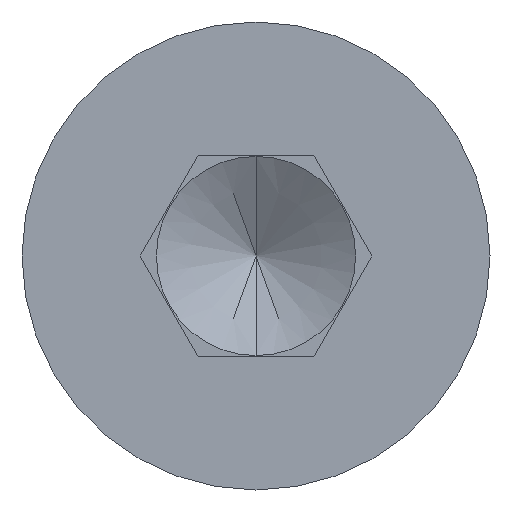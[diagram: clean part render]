
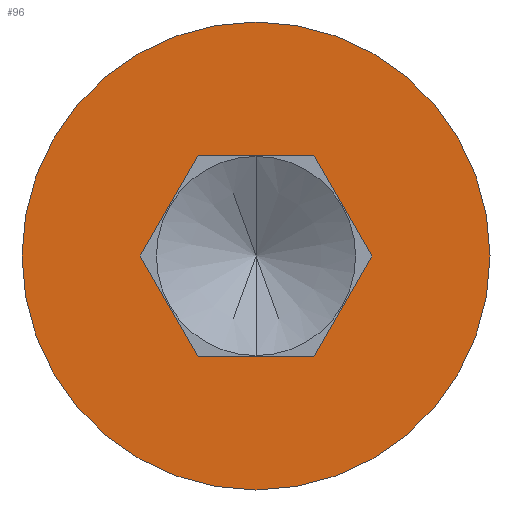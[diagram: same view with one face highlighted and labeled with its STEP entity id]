
A CAD part, left-side view. The second image highlights one B-rep face of the part: STEP entity #96.
In plain terms, the highlighted planar face has unit normal (-1, 0, 0).
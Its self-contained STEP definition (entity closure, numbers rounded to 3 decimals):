
#15 = CARTESIAN_POINT ( 'NONE',  ( -4., -1.732, 0. ) ) ;
#17 = FACE_OUTER_BOUND ( 'NONE', #564, .T. ) ;
#48 = CARTESIAN_POINT ( 'NONE',  ( -4., -0.866, 1.5 ) ) ;
#96 = ADVANCED_FACE ( 'NONE', ( #661, #17 ), #298, .T. ) ;
#102 = LINE ( 'NONE', #370, #254 ) ;
#103 = DIRECTION ( 'NONE',  ( 1., 0., 0. ) ) ;
#109 = EDGE_LOOP ( 'NONE', ( #718, #211, #519, #164, #365, #445 ) ) ;
#114 = LINE ( 'NONE', #619, #450 ) ;
#124 = EDGE_CURVE ( 'NONE', #215, #692, #769, .T. ) ;
#129 = ORIENTED_EDGE ( 'NONE', *, *, #347, .F. ) ;
#137 = CARTESIAN_POINT ( 'NONE',  ( -4., 0.866, 1.5 ) ) ;
#164 = ORIENTED_EDGE ( 'NONE', *, *, #124, .T. ) ;
#174 = AXIS2_PLACEMENT_3D ( 'NONE', #301, #730, #364 ) ;
#179 = CARTESIAN_POINT ( 'NONE',  ( -4., 0., 3.5 ) ) ;
#190 = CIRCLE ( 'NONE', #368, 3.5 ) ;
#197 = DIRECTION ( 'NONE',  ( 0., 0.5, 0.866 ) ) ;
#205 = VERTEX_POINT ( 'NONE', #179 ) ;
#211 = ORIENTED_EDGE ( 'NONE', *, *, #266, .T. ) ;
#215 = VERTEX_POINT ( 'NONE', #553 ) ;
#254 = VECTOR ( 'NONE', #796, 1000. ) ;
#259 = ORIENTED_EDGE ( 'NONE', *, *, #747, .F. ) ;
#266 = EDGE_CURVE ( 'NONE', #326, #380, #377, .T. ) ;
#267 = DIRECTION ( 'NONE',  ( 0., -0.5, 0.866 ) ) ;
#294 = VERTEX_POINT ( 'NONE', #530 ) ;
#298 = PLANE ( 'NONE',  #174 ) ;
#301 = CARTESIAN_POINT ( 'NONE',  ( -4., 1.75, 0. ) ) ;
#306 = VERTEX_POINT ( 'NONE', #658 ) ;
#326 = VERTEX_POINT ( 'NONE', #535 ) ;
#334 = CARTESIAN_POINT ( 'NONE',  ( -4., 0., 0. ) ) ;
#347 = EDGE_CURVE ( 'NONE', #205, #294, #402, .T. ) ;
#364 = DIRECTION ( 'NONE',  ( 0., 0., 1. ) ) ;
#365 = ORIENTED_EDGE ( 'NONE', *, *, #469, .T. ) ;
#368 = AXIS2_PLACEMENT_3D ( 'NONE', #334, #762, #394 ) ;
#370 = CARTESIAN_POINT ( 'NONE',  ( -4., -1.732, 0. ) ) ;
#377 = LINE ( 'NONE', #387, #700 ) ;
#380 = VERTEX_POINT ( 'NONE', #605 ) ;
#387 = CARTESIAN_POINT ( 'NONE',  ( -4., 0.866, -1.5 ) ) ;
#394 = DIRECTION ( 'NONE',  ( 0., 0., 1. ) ) ;
#402 = CIRCLE ( 'NONE', #617, 3.5 ) ;
#426 = DIRECTION ( 'NONE',  ( 0., -1., 0. ) ) ;
#445 = ORIENTED_EDGE ( 'NONE', *, *, #759, .T. ) ;
#450 = VECTOR ( 'NONE', #682, 1000. ) ;
#458 = DIRECTION ( 'NONE',  ( 0., 0.5, -0.866 ) ) ;
#469 = EDGE_CURVE ( 'NONE', #692, #741, #102, .T. ) ;
#475 = CARTESIAN_POINT ( 'NONE',  ( -4., 0., 0. ) ) ;
#503 = VECTOR ( 'NONE', #458, 1000. ) ;
#519 = ORIENTED_EDGE ( 'NONE', *, *, #702, .T. ) ;
#530 = CARTESIAN_POINT ( 'NONE',  ( -4., 0., -3.5 ) ) ;
#535 = CARTESIAN_POINT ( 'NONE',  ( -4., 0.866, -1.5 ) ) ;
#537 = EDGE_CURVE ( 'NONE', #306, #326, #114, .T. ) ;
#538 = DIRECTION ( 'NONE',  ( 0., 0., 1. ) ) ;
#553 = CARTESIAN_POINT ( 'NONE',  ( -4., 0.866, 1.5 ) ) ;
#564 = EDGE_LOOP ( 'NONE', ( #129, #259 ) ) ;
#578 = VECTOR ( 'NONE', #267, 1000. ) ;
#605 = CARTESIAN_POINT ( 'NONE',  ( -4., 1.732, 0. ) ) ;
#617 = AXIS2_PLACEMENT_3D ( 'NONE', #475, #103, #538 ) ;
#619 = CARTESIAN_POINT ( 'NONE',  ( -4., 0.866, -1.5 ) ) ;
#631 = CARTESIAN_POINT ( 'NONE',  ( -4., -0.866, 1.5 ) ) ;
#637 = CARTESIAN_POINT ( 'NONE',  ( -4., -0.866, -1.5 ) ) ;
#658 = CARTESIAN_POINT ( 'NONE',  ( -4., -0.866, -1.5 ) ) ;
#661 = FACE_BOUND ( 'NONE', #109, .T. ) ;
#664 = LINE ( 'NONE', #637, #503 ) ;
#682 = DIRECTION ( 'NONE',  ( 0., 1., 0. ) ) ;
#692 = VERTEX_POINT ( 'NONE', #631 ) ;
#700 = VECTOR ( 'NONE', #197, 1000. ) ;
#702 = EDGE_CURVE ( 'NONE', #380, #215, #745, .T. ) ;
#718 = ORIENTED_EDGE ( 'NONE', *, *, #537, .T. ) ;
#730 = DIRECTION ( 'NONE',  ( -1., 0., 0. ) ) ;
#741 = VERTEX_POINT ( 'NONE', #15 ) ;
#745 = LINE ( 'NONE', #137, #578 ) ;
#747 = EDGE_CURVE ( 'NONE', #294, #205, #190, .T. ) ;
#751 = VECTOR ( 'NONE', #426, 1000. ) ;
#759 = EDGE_CURVE ( 'NONE', #741, #306, #664, .T. ) ;
#762 = DIRECTION ( 'NONE',  ( 1., 0., 0. ) ) ;
#769 = LINE ( 'NONE', #48, #751 ) ;
#796 = DIRECTION ( 'NONE',  ( 0., -0.5, -0.866 ) ) ;
